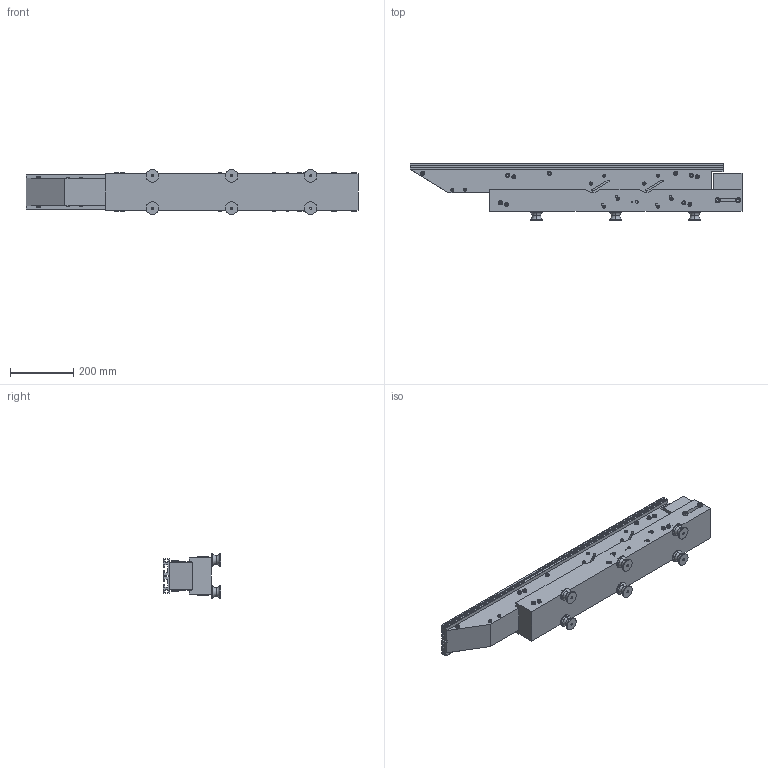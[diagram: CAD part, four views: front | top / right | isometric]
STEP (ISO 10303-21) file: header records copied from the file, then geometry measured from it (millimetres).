
FILE_DESCRIPTION (( 'STEP AP203' ), '1' );
FILE_NAME ('ZL1000 眻盄23.04.STEP', '2023-04-13T01:56:59', ( '' ), ( '' ), 'SwSTEP 2.0', 'SolidWorks 2022', '' );
FILE_SCHEMA (( 'CONFIG_CONTROL_DESIGN' ));
Length unit declared in the file: millimetre
Products named in the file (1): ZL1000 眻盄23.04
Bounding box: 1050 x 182 x 142 mm (x, y, z)
Volume: 13219938 mm3; surface area: 921528.3 mm2
Topology: 15 solids, 49 shells, 1448 faces, 3076 edges, 1844 vertices
Faces by surface type: plane 874, cylinder 310, cone 148, bspline 92, torus 24
Entity records: 39341 total; most frequent: CARTESIAN_POINT 8013, DIRECTION 6702, ORIENTED_EDGE 6128, EDGE_CURVE 3064, AXIS2_PLACEMENT_3D 2373, VECTOR 1956, LINE 1956, VERTEX_POINT 1844
